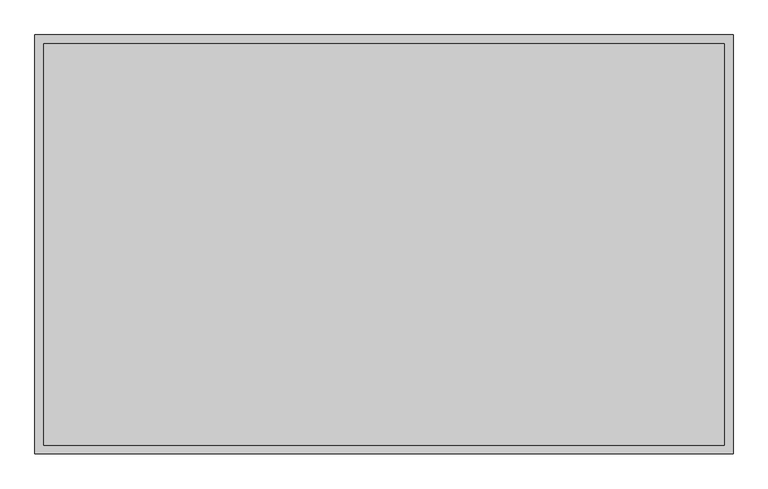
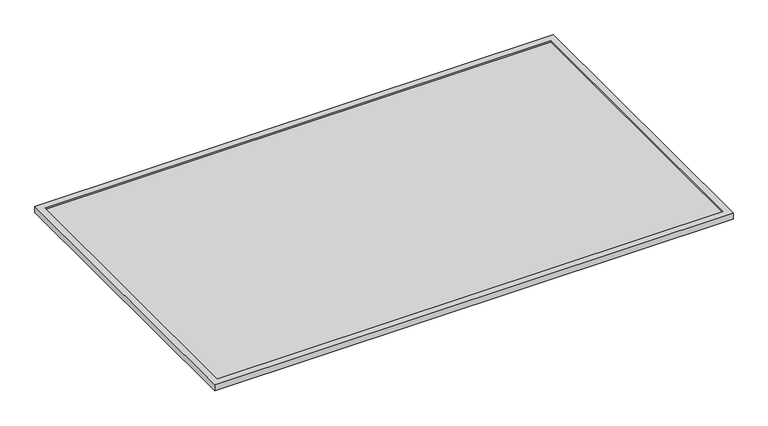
"""IFC4 building model written with IfcOpenShell, lengths in millimetres: proxy geometry, Bradley-Washroom_Accessories-Mirrors-780_Custom (3) : Bradley-Washroom_Accessories-Mirrors-780_Custom (3)."""

import ifcopenshell
import ifcopenshell.guid

model = None  # the IFC model being written
_history = None  # IfcOwnerHistory: only IFC2X3 demands one
_inside = {}  # id of a spatial element -> (the spatial element, [elements in it])
_under = {}  # id of a project, library or spatial element -> (it, [spatial elements below it])
_declared = {}  # id of a project -> (the project, [libraries it declares])
_typed = {}  # id of a type object -> (the type object, [elements of that type])
_made_of = {}  # id of a material, layer set ... -> (it, [elements and type objects made of it])


def new_model(schema):
    """Start an empty IFC model of exactly this schema.

    Asked for "IFC4X3", IfcOpenShell would pick the latest addendum, in which some entities
    have other attributes; the version numbers below select the first issue.
    IFC2X3 requires an IfcOwnerHistory on every rooted entity: one is made here for all.
    """
    global model, _history
    if schema == "IFC4X3":
        model = ifcopenshell.file(schema_version=(4, 3, 0, 0))
    else:
        model = ifcopenshell.file(schema=schema)
    _inside.clear()
    _under.clear()
    _declared.clear()
    _typed.clear()
    _made_of.clear()
    _history = None
    if model.schema == "IFC2X3":
        org = make("IfcOrganization", Name="unknown")
        user = make(
            "IfcPersonAndOrganization",
            ThePerson=make("IfcPerson", FamilyName="unknown"),
            TheOrganization=org,
        )
        app = make(
            "IfcApplication",
            ApplicationDeveloper=org,
            Version="unknown",
            ApplicationFullName="unknown",
            ApplicationIdentifier="unknown",
        )
        _history = make(
            "IfcOwnerHistory",
            OwningUser=user,
            OwningApplication=app,
            ChangeAction="ADDED",
            CreationDate=0,
        )
    return model


def make(cls, **values):
    """One entity of the class cls with the attributes given. An attribute that is None is left unset."""
    return model.create_entity(
        cls, **{name: value for name, value in values.items() if value is not None}
    )


def rooted(cls, **values):
    """An entity with a GlobalId (a new one), such as an element, a storey or a relation."""
    return make(cls, GlobalId=ifcopenshell.guid.new(), OwnerHistory=_history, **values)


def si_unit(unit_type, name, prefix=None):
    """IfcSIUnit, for example si_unit("LENGTHUNIT", "METRE", prefix="MILLI")."""
    return make("IfcSIUnit", UnitType=unit_type, Prefix=prefix, Name=name)


def assignment(units):
    """IfcUnitAssignment: the units of a project."""
    return None if units is None else make("IfcUnitAssignment", Units=units)


def point(xyz):
    """IfcCartesianPoint."""
    return None if xyz is None else make("IfcCartesianPoint", Coordinates=xyz)


def direction(xyz):
    """IfcDirection."""
    return None if xyz is None else make("IfcDirection", DirectionRatios=xyz)


def frame(location, z_axis=None, x_axis=None):
    """IfcAxis2Placement3D, a coordinate frame: its origin and axes. An axis left out is left unset."""
    return make(
        "IfcAxis2Placement3D",
        Location=point(location),
        Axis=direction(z_axis),
        RefDirection=direction(x_axis),
    )


def origin():
    """The frame at (0, 0, 0) with its axes left unset."""
    return frame((0.0, 0.0, 0.0))


def place(relative_to, where):
    """IfcLocalPlacement: puts the frame where relative to a parent placement (None: the world)."""
    return make(
        "IfcLocalPlacement", PlacementRelTo=relative_to, RelativePlacement=where
    )


def context(
    kind, dimensions, precision=None, world=None, true_north=None, identifier=None
):
    """IfcGeometricRepresentationContext, for example the 3D "Model" context."""
    return make(
        "IfcGeometricRepresentationContext",
        ContextIdentifier=identifier,
        ContextType=kind,
        CoordinateSpaceDimension=dimensions,
        Precision=precision,
        WorldCoordinateSystem=world,
        TrueNorth=true_north,
    )


def project(units=None, contexts=None):
    """IfcProject with its units and contexts."""
    return rooted(
        "IfcProject",
        Name="project",
        RepresentationContexts=contexts,
        UnitsInContext=assignment(units),
    )


def spatial(cls, under=None, at=None, **own):
    """A site, building, storey or space (cls), placed at a placement, below another one or the project."""
    s = rooted(cls, ObjectPlacement=at, **own)
    if under is not None:
        _under.setdefault(under.id(), (under, []))[1].append(s)
    return s


def polyline(points):
    """IfcPolyline through the points."""
    return make("IfcPolyline", Points=[point(p) for p in points])


def outline(outer, holes=None, kind="AREA"):
    """IfcArbitraryClosedProfileDef: a profile drawn as a closed curve; with holes, ...WithVoids."""
    if holes is None:
        return make("IfcArbitraryClosedProfileDef", ProfileType=kind, OuterCurve=outer)
    return make(
        "IfcArbitraryProfileDefWithVoids",
        ProfileType=kind,
        OuterCurve=outer,
        InnerCurves=holes,
    )


def extrude(swept, where, along, depth):
    """IfcExtrudedAreaSolid: the profile swept, set in the frame where, extruded along a direction by depth."""
    return make(
        "IfcExtrudedAreaSolid",
        SweptArea=swept,
        Position=where,
        ExtrudedDirection=direction(along),
        Depth=depth,
    )


def faces_of(points, faces, orient=None, outer=None):
    """IfcFace entities. A face is a list of loops; a loop is a list of indices into points, from 0.

    orient and outer hold one flag for each loop. By default every Orientation is true, the
    first loop of a face is its IfcFaceOuterBound and the others are IfcFaceBound.
    """
    made = []
    for i, loops in enumerate(faces):
        bounds = []
        for j, loop in enumerate(loops):
            is_outer = j == 0 if outer is None else outer[i][j]
            bounds.append(
                make(
                    "IfcFaceOuterBound" if is_outer else "IfcFaceBound",
                    Bound=make("IfcPolyLoop", Polygon=[points[k] for k in loop]),
                    Orientation=True if orient is None else orient[i][j],
                )
            )
        made.append(make("IfcFace", Bounds=bounds))
    return made


def faceted_brep(points, faces, orient=None, outer=None, voids=None):
    """IfcFacetedBrep: a solid bounded by flat faces; with voids (closed shells), ...WithVoids."""
    shared = [point(p) for p in points]
    hull = make("IfcClosedShell", CfsFaces=faces_of(shared, faces, orient, outer))
    if voids is None:
        return make("IfcFacetedBrep", Outer=hull)
    return make(
        "IfcFacetedBrepWithVoids",
        Outer=hull,
        Voids=[
            make(cls, CfsFaces=faces_of(shared, fs, o, b)) for cls, fs, o, b in voids
        ],
    )


def shape(context_of_items, identifier, shape_type, items):
    """IfcShapeRepresentation: the items that make up one representation, for example the "Body"."""
    return make(
        "IfcShapeRepresentation",
        ContextOfItems=context_of_items,
        RepresentationIdentifier=identifier,
        RepresentationType=shape_type,
        Items=items,
    )


def source(mapping_origin, context_of_items, identifier, shape_type, items):
    """IfcRepresentationMap: a shape defined once, which mapped items show again and again."""
    return make(
        "IfcRepresentationMap",
        MappingOrigin=mapping_origin,
        MappedRepresentation=shape(context_of_items, identifier, shape_type, items),
    )


def transform(
    local_origin,
    x_axis=None,
    y_axis=None,
    z_axis=None,
    scale=None,
    scale2=None,
    scale3=None,
    uniform=True,
):
    """IfcCartesianTransformationOperator3D, or its non-uniform kind. x_axis, y_axis, z_axis: its Axis1, 2, 3."""
    if uniform:
        return make(
            "IfcCartesianTransformationOperator3D",
            Axis1=direction(x_axis),
            Axis2=direction(y_axis),
            LocalOrigin=point(local_origin),
            Scale=scale,
            Axis3=direction(z_axis),
        )
    return make(
        "IfcCartesianTransformationOperator3DnonUniform",
        Axis1=direction(x_axis),
        Axis2=direction(y_axis),
        LocalOrigin=point(local_origin),
        Scale=scale,
        Axis3=direction(z_axis),
        Scale2=scale2,
        Scale3=scale3,
    )


def mapped(mapping_source, mapping_target):
    """IfcMappedItem: shows the shape of a source again, moved by a transform."""
    return make(
        "IfcMappedItem", MappingSource=mapping_source, MappingTarget=mapping_target
    )


def made_of(thing, what):
    """Note that an element or type object is made of a material, layer set ...; save() writes the relation."""
    if what is not None:
        _made_of.setdefault(what.id(), (what, []))[1].append(thing)
    return thing


def element(
    cls,
    number,
    at=None,
    inside=None,
    cuts=None,
    type_object=None,
    material=None,
    context=None,
    identifier="Body",
    shape_type=None,
    held_by="IfcProductDefinitionShape",
    body=None,
    shapes=None,
    **own,
):
    """One element of the class cls, such as IfcWall. Its Tag is "e" and its number.

    at: its placement. inside: the storey or other place that contains it. cuts: it is an
    opening in that element (IfcRelVoidsElement). A single representation is given by context,
    identifier, shape_type and body (its items); several are given by shapes. held_by: the class
    of the entity that holds the representations. save() writes the other relations.
    """
    e = rooted(cls, Tag="e%d" % number, ObjectPlacement=at, **own)
    if body is not None:
        shapes = [shape(context, identifier, shape_type, body)]
    if shapes is not None:
        e.Representation = make(held_by, Representations=shapes)
    if inside is not None:
        _inside.setdefault(inside.id(), (inside, []))[1].append(e)
    if cuts is not None:
        rooted(
            "IfcRelVoidsElement", RelatingBuildingElement=cuts, RelatedOpeningElement=e
        )
    if type_object is not None:
        _typed.setdefault(type_object.id(), (type_object, []))[1].append(e)
    return made_of(e, material)


def aggregate(whole, parts):
    """IfcRelAggregates: a whole, such as a stair, and the parts it consists of."""
    return rooted("IfcRelAggregates", RelatingObject=whole, RelatedObjects=parts)


def save(model, path):
    """Write the relations noted so far, then the file.

    IfcRelAggregates (storeys below a building ...), IfcRelContainedInSpatialStructure (elements
    in a storey), IfcRelDefinesByType, IfcRelAssociatesMaterial and IfcRelDeclares: one each for
    every whole, place, type object, material and project.
    """
    for whole, parts in _under.values():
        aggregate(whole, parts)
    for where, things in _inside.values():
        rooted(
            "IfcRelContainedInSpatialStructure",
            RelatedElements=things,
            RelatingStructure=where,
        )
    for kind, things in _typed.values():
        rooted("IfcRelDefinesByType", RelatedObjects=things, RelatingType=kind)
    for what, things in _made_of.values():
        rooted("IfcRelAssociatesMaterial", RelatedObjects=things, RelatingMaterial=what)
    for by, libraries in _declared.values():
        rooted("IfcRelDeclares", RelatingContext=by, RelatedDefinitions=libraries)
    model.write(path)


def specialty_equipment_ecad7e4f(model_context):
    return source(origin(), model_context, "Body", "SolidModel", [
        extrude(outline(polyline([(742.95, 438.15), (742.95, -438.15), (-742.95, -438.15), (-742.95, 438.15), (742.95, 438.15)])), frame((0.0, 0.0, 9.525), z_axis=(0.0, 0.0, 1.0), x_axis=(1.0, 0.0, 0.0)), (0.0, 0.0, 1.0), 4.7625),
        faceted_brep([(762.0, 457.2, 19.05), (-762.0, 457.2, 19.05), (-762.0, -457.2, 19.05), (762.0, -457.2, 19.05), (-742.95, 438.15, 19.05), (742.95, 438.15, 19.05), (742.95, -438.15, 19.05), (-742.95, -438.15, 19.05), (762.0, 457.2, 0.0), (762.0, -457.2, 0.0), (-762.0, -457.2, 0.0), (-762.0, 457.2, 0.0), (742.95, 438.15, 9.525), (-742.95, 438.15, 9.525), (-742.95, -438.15, 9.525), (742.95, -438.15, 9.525)], [[[0, 1, 2, 3], [4, 5, 6, 7]], [[8, 9, 10, 11]], [[1, 0, 8, 11]], [[2, 1, 11, 10]], [[3, 2, 10, 9]], [[0, 3, 9, 8]], [[12, 13, 14, 15]], [[13, 12, 5, 4]], [[14, 13, 4, 7]], [[15, 14, 7, 6]], [[12, 15, 6, 5]]]),
    ])


if __name__ == "__main__":
    model = new_model("IFC4")
    model_context = context("Model", 3, world=origin())
    ifc_project = project(units=[si_unit("LENGTHUNIT", "METRE", prefix="MILLI")], contexts=[model_context])
    site = spatial("IfcSite", under=ifc_project)
    building = spatial("IfcBuilding", under=site)
    placement = place(None, origin())
    specialty_equipment_shape = specialty_equipment_ecad7e4f(model_context)
    element("IfcBuildingElementProxy", 1, Name="Bradley-Washroom_Accessories-Mirrors-780_Custom (3) : Bradley-Washroom_Accessories-Mirrors-780_Custom (3)", ObjectType="Bradley-Washroom_Accessories-Mirrors-780_Custom (3) : Bradley-Washroom_Accessories-Mirrors-780_Custom (3)", at=placement, inside=building, context=model_context, shape_type="MappedRepresentation", body=[
        mapped(specialty_equipment_shape, transform((0.0, 0.0, 0.0), x_axis=(1.0, 0.0, 0.0), y_axis=(0.0, 1.0, 0.0), z_axis=(0.0, 0.0, 1.0))),
    ])
    save(model, "model.ifc")
